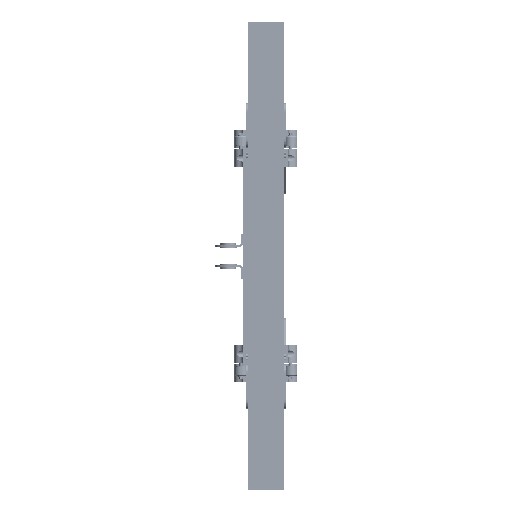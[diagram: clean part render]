
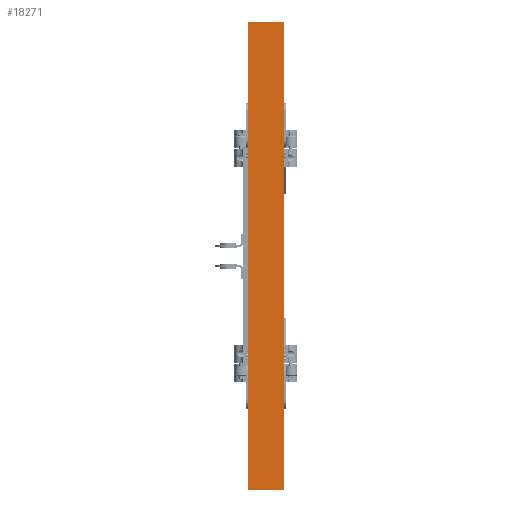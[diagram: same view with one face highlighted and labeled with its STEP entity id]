
A CAD part, front view. The second image highlights one B-rep face of the part: STEP entity #18271.
In plain terms, the highlighted planar face has unit normal (0, -1, 0).
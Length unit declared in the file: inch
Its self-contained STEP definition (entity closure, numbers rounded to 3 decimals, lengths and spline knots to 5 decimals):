
#1043=LINE('',#27564,#2183);
#1051=LINE('',#27579,#2191);
#1052=LINE('',#27581,#2192);
#1053=LINE('',#27582,#2193);
#2183=VECTOR('',#22117,26.);
#2191=VECTOR('',#22129,26.);
#2192=VECTOR('',#22132,2.);
#2193=VECTOR('',#22133,2.);
#3317=PLANE('',#19592);
#4880=FACE_OUTER_BOUND('',#6286,.T.);
#6286=EDGE_LOOP('',(#13309,#13310,#13311,#13312));
#8903=VERTEX_POINT('',#27561);
#8904=VERTEX_POINT('',#27563);
#8908=VERTEX_POINT('',#27575);
#8909=VERTEX_POINT('',#27577);
#10620=EDGE_CURVE('',#8903,#8904,#1043,.T.);
#10628=EDGE_CURVE('',#8908,#8909,#1051,.T.);
#10629=EDGE_CURVE('',#8903,#8908,#1052,.T.);
#10630=EDGE_CURVE('',#8904,#8909,#1053,.T.);
#13309=ORIENTED_EDGE('',*,*,#10629,.T.);
#13310=ORIENTED_EDGE('',*,*,#10628,.T.);
#13311=ORIENTED_EDGE('',*,*,#10630,.F.);
#13312=ORIENTED_EDGE('',*,*,#10620,.F.);
#18271=ADVANCED_FACE('',(#4880),#3317,.T.);
#19592=AXIS2_PLACEMENT_3D('',#27580,#22130,#22131);
#22117=DIRECTION('',(0.,0.,1.));
#22129=DIRECTION('',(0.,0.,1.));
#22130=DIRECTION('center_axis',(0.,-1.,0.));
#22131=DIRECTION('ref_axis',(1.,0.,0.));
#22132=DIRECTION('',(1.,0.,0.));
#22133=DIRECTION('',(1.,0.,0.));
#27561=CARTESIAN_POINT('',(0.,0.,0.));
#27563=CARTESIAN_POINT('',(0.,0.,26.));
#27564=CARTESIAN_POINT('',(0.,0.,0.));
#27575=CARTESIAN_POINT('',(2.,0.,0.));
#27577=CARTESIAN_POINT('',(2.,0.,26.));
#27579=CARTESIAN_POINT('',(2.,0.,0.));
#27580=CARTESIAN_POINT('Origin',(0.,0.,0.));
#27581=CARTESIAN_POINT('',(0.,0.,0.));
#27582=CARTESIAN_POINT('',(0.,0.,26.));
